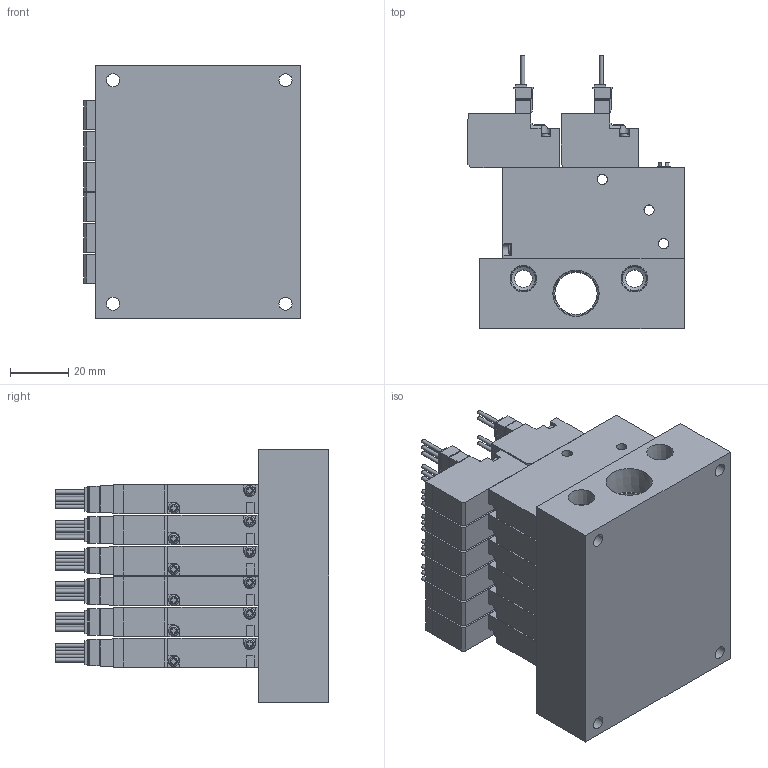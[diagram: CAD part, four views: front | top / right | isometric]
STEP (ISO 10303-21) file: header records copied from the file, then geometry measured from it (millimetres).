
FILE_DESCRIPTION(('STEP AP203'),'1');
FILE_NAME('BMPV42MZZ5W606.stp','2025-04-30T05:34:30',(' '),(' '),'Spatial InterOp 3D',' ',' ');
FILE_SCHEMA(('CONFIG_CONTROL_DESIGN'));
Length unit declared in the file: millimetre
Products named in the file (12): BMPV42MZZ5W606; VACUUM VALVE FUNCTION MPV42-W; MC4-M6; UNIT-MPV42; VACUUM VALVE FUNCTION MPV42-A
Assembly tree (19 placements, depth 2):
  BMPV42MZZ5W606
    VACUUM VALVE FUNCTION MPV42-W
    VACUUM VALVE FUNCTION MPV42-W
    VACUUM VALVE FUNCTION MPV42-W
    VACUUM VALVE FUNCTION MPV42-W
    VACUUM VALVE FUNCTION MPV42-W
    VACUUM VALVE FUNCTION MPV42-W
    MC4-M6
    UNIT-MPV42
    UNIT-MPV42  x5
    VACUUM VALVE FUNCTION MPV42-A
    VACUUM VALVE FUNCTION MPV42-A  x5
Bounding box: 74 x 93.45 x 86.5 mm (x, y, z)
Volume: 298176.3 mm3; surface area: 94679.2 mm2
Topology: 19 solids, 19 shells, 1617 faces, 4348 edges, 2895 vertices
Faces by surface type: plane 1302, cylinder 257, cone 34, torus 12, sphere 12
Full cylindrical faces by diameter (mm): 1.4 x30, 1.8 x6, 2.2 x12, 3 x24, 3.5 x42, 4.134 x6, 4.5 x4, 5 x6, 6 x2, 8.2 x4, 14.5 x1
Entity records: 30140 total; most frequent: CARTESIAN_POINT 5381, ORIENTED_EDGE 4936, DIRECTION 4828, EDGE_CURVE 2468, LINE 2054, VECTOR 2054, VERTEX_POINT 1700, AXIS2_PLACEMENT_3D 1387
